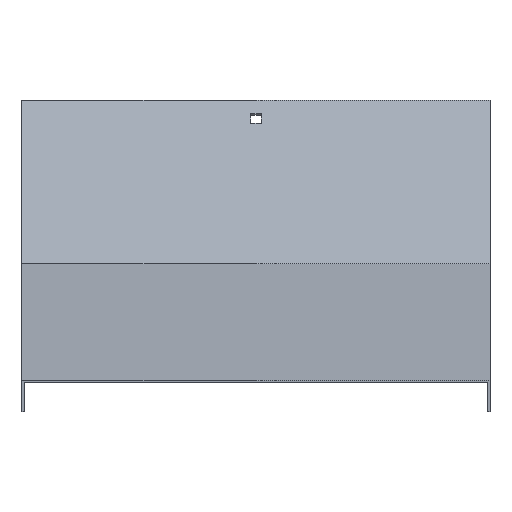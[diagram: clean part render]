
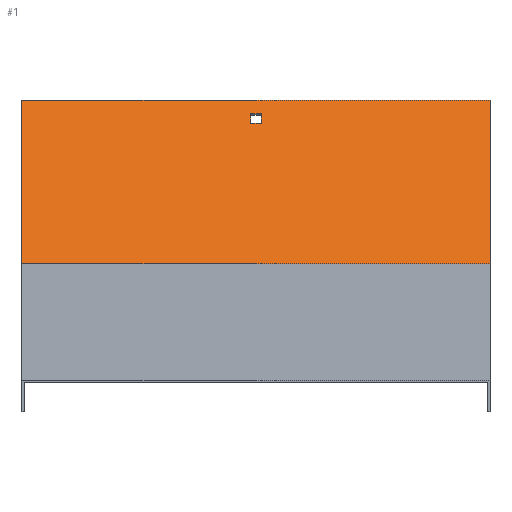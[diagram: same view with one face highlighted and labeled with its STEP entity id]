
A CAD part, top view. The second image highlights one B-rep face of the part: STEP entity #1.
In plain terms, the highlighted planar face has unit normal (0, 0.707, 0.707).
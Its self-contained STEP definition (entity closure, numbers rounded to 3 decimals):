
#1 = ADVANCED_FACE ( 'NONE', ( #202, #132 ), #721, .T. ) ;
#15 = CARTESIAN_POINT ( 'NONE',  ( 3.25, 167.038, -424.265 ) ) ;
#19 = VERTEX_POINT ( 'NONE', #789 ) ;
#33 = VECTOR ( 'NONE', #125, 1000. ) ;
#58 = ORIENTED_EDGE ( 'NONE', *, *, #702, .T. ) ;
#62 = VERTEX_POINT ( 'NONE', #597 ) ;
#76 = DIRECTION ( 'NONE',  ( 0., -0.707, 0.707 ) ) ;
#77 = VECTOR ( 'NONE', #76, 1000. ) ;
#95 = VERTEX_POINT ( 'NONE', #728 ) ;
#123 = DIRECTION ( 'NONE',  ( 0., 0.707, 0.707 ) ) ;
#125 = DIRECTION ( 'NONE',  ( -1., 0., 0. ) ) ;
#132 = FACE_OUTER_BOUND ( 'NONE', #816, .T. ) ;
#162 = VECTOR ( 'NONE', #506, 1000. ) ;
#164 = ORIENTED_EDGE ( 'NONE', *, *, #530, .T. ) ;
#172 = CARTESIAN_POINT ( 'NONE',  ( 151.5, 181.887, -439.115 ) ) ;
#175 = LINE ( 'NONE', #260, #676 ) ;
#185 = LINE ( 'NONE', #575, #245 ) ;
#186 = VERTEX_POINT ( 'NONE', #747 ) ;
#202 = FACE_BOUND ( 'NONE', #315, .T. ) ;
#221 = DIRECTION ( 'NONE',  ( 0., 0.707, -0.707 ) ) ;
#225 = EDGE_CURVE ( 'NONE', #395, #513, #484, .T. ) ;
#232 = DIRECTION ( 'NONE',  ( 0., 0.707, -0.707 ) ) ;
#245 = VECTOR ( 'NONE', #445, 1000. ) ;
#260 = CARTESIAN_POINT ( 'NONE',  ( 3.25, 173.402, -430.629 ) ) ;
#262 = EDGE_CURVE ( 'NONE', #186, #19, #185, .T. ) ;
#275 = CARTESIAN_POINT ( 'NONE',  ( 151.5, 75.963, -333.19 ) ) ;
#293 = LINE ( 'NONE', #486, #77 ) ;
#315 = EDGE_LOOP ( 'NONE', ( #698, #356, #446, #548 ) ) ;
#323 = EDGE_CURVE ( 'NONE', #95, #642, #175, .T. ) ;
#332 = DIRECTION ( 'NONE',  ( 0., -0.707, 0.707 ) ) ;
#333 = LINE ( 'NONE', #275, #33 ) ;
#347 = CARTESIAN_POINT ( 'NONE',  ( -3.25, 173.402, -430.629 ) ) ;
#356 = ORIENTED_EDGE ( 'NONE', *, *, #262, .F. ) ;
#384 = EDGE_CURVE ( 'NONE', #603, #395, #333, .T. ) ;
#395 = VERTEX_POINT ( 'NONE', #794 ) ;
#406 = CARTESIAN_POINT ( 'NONE',  ( 151.5, 75.963, -333.19 ) ) ;
#436 = DIRECTION ( 'NONE',  ( -1., 0., 0. ) ) ;
#445 = DIRECTION ( 'NONE',  ( 1., 0., 0. ) ) ;
#446 = ORIENTED_EDGE ( 'NONE', *, *, #558, .F. ) ;
#455 = VECTOR ( 'NONE', #821, 1000. ) ;
#484 = LINE ( 'NONE', #820, #847 ) ;
#486 = CARTESIAN_POINT ( 'NONE',  ( -3.25, 167.038, -424.265 ) ) ;
#506 = DIRECTION ( 'NONE',  ( -1., 0., 0. ) ) ;
#513 = VERTEX_POINT ( 'NONE', #522 ) ;
#522 = CARTESIAN_POINT ( 'NONE',  ( -151.5, 181.887, -439.115 ) ) ;
#530 = EDGE_CURVE ( 'NONE', #603, #62, #815, .T. ) ;
#548 = ORIENTED_EDGE ( 'NONE', *, *, #323, .F. ) ;
#558 = EDGE_CURVE ( 'NONE', #642, #186, #293, .T. ) ;
#565 = LINE ( 'NONE', #172, #162 ) ;
#575 = CARTESIAN_POINT ( 'NONE',  ( 3.25, 167.038, -424.265 ) ) ;
#597 = CARTESIAN_POINT ( 'NONE',  ( 151.5, 181.887, -439.115 ) ) ;
#603 = VERTEX_POINT ( 'NONE', #406 ) ;
#607 = LINE ( 'NONE', #15, #757 ) ;
#642 = VERTEX_POINT ( 'NONE', #347 ) ;
#646 = EDGE_CURVE ( 'NONE', #19, #95, #607, .T. ) ;
#676 = VECTOR ( 'NONE', #436, 1000. ) ;
#685 = AXIS2_PLACEMENT_3D ( 'NONE', #716, #123, #332 ) ;
#692 = ORIENTED_EDGE ( 'NONE', *, *, #225, .F. ) ;
#698 = ORIENTED_EDGE ( 'NONE', *, *, #646, .F. ) ;
#702 = EDGE_CURVE ( 'NONE', #62, #513, #565, .T. ) ;
#716 = CARTESIAN_POINT ( 'NONE',  ( 151.5, 75.963, -333.19 ) ) ;
#721 = PLANE ( 'NONE',  #685 ) ;
#728 = CARTESIAN_POINT ( 'NONE',  ( 3.25, 173.402, -430.629 ) ) ;
#743 = CARTESIAN_POINT ( 'NONE',  ( 151.5, 75.963, -333.19 ) ) ;
#747 = CARTESIAN_POINT ( 'NONE',  ( -3.25, 167.038, -424.265 ) ) ;
#757 = VECTOR ( 'NONE', #221, 1000. ) ;
#789 = CARTESIAN_POINT ( 'NONE',  ( 3.25, 167.038, -424.265 ) ) ;
#794 = CARTESIAN_POINT ( 'NONE',  ( -151.5, 75.963, -333.19 ) ) ;
#803 = ORIENTED_EDGE ( 'NONE', *, *, #384, .F. ) ;
#815 = LINE ( 'NONE', #743, #455 ) ;
#816 = EDGE_LOOP ( 'NONE', ( #692, #803, #164, #58 ) ) ;
#820 = CARTESIAN_POINT ( 'NONE',  ( -151.5, 75.963, -333.19 ) ) ;
#821 = DIRECTION ( 'NONE',  ( 0., 0.707, -0.707 ) ) ;
#847 = VECTOR ( 'NONE', #232, 1000. ) ;
